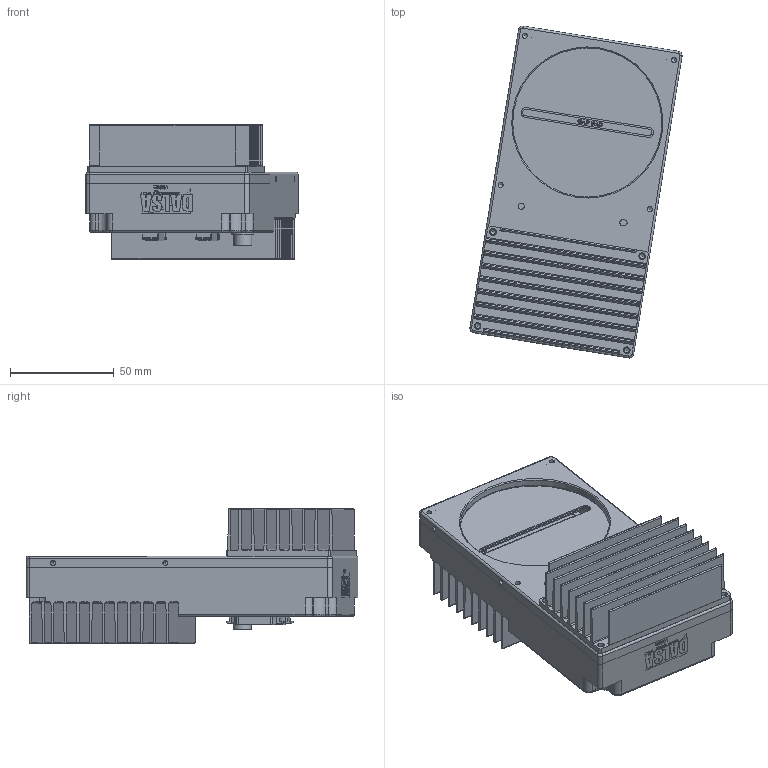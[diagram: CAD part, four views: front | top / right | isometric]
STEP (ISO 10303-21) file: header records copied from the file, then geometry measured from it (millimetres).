
FILE_DESCRIPTION((''),'2;1');
FILE_NAME('C:\Documents and Settings\storring\Desktop\Request# 69287 Mech. Step Files of P2, P3 cameras\STEP Files\HS-8K RoHS_serpac.stp','2007-02-14T09:26:43',('storring'),(''),'Autodesk Inventor 11','Autodesk Inventor 11','');
FILE_SCHEMA(('AUTOMOTIVE_DESIGN { 1 0 10303 214 1 1 1 1 }'));
Length unit declared in the file: millimetre
Products named in the file (1): Part11
Bounding box: 102.44 x 160.3 x 65 mm (x, y, z)
Volume: 164168 mm3; surface area: 151271.7 mm2
Topology: 7 solids, 7 shells, 2939 faces, 7877 edges, 5214 vertices
Faces by surface type: plane 1793, bspline 801, cylinder 305, cone 32, torus 6, sphere 2
Full cylindrical faces by diameter (mm): 0.1 x1, 0.8 x12, 1 x6, 2.113 x4, 2.156 x6, 2.459 x18, 2.92 x1, 3 x1, 3.2 x8, 4 x1, 5 x1, 6 x6, 7.3 x1, 7.62 x1, 7.8 x1, 8.85 x1, 11 x1, 72 x1
Entity records: 97045 total; most frequent: CARTESIAN_POINT 29032, ORIENTED_EDGE 15456, DIRECTION 11035, EDGE_CURVE 7728, VECTOR 5465, LINE 5465, VERTEX_POINT 5183, EDGE_LOOP 3357
